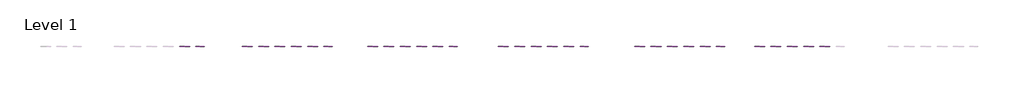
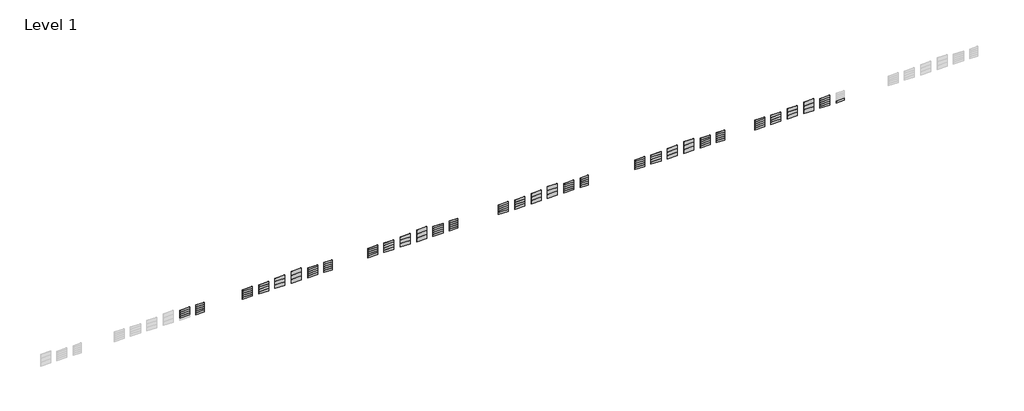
# One storey, part 3 of 6: 130 plates.
"""IFC4 building model written with IfcOpenShell, lengths in millimetres."""

from ifc_helpers import new_model, si_unit, origin, place, context, project, spatial, transform, mapped, element, save
from components import s001_satin_white_20mm_e5290f1d, plate_eaecce36, s001_satin_white_20mm_25284a5f, plate_eb5be41b, s001_satin_white_12mm_60b0a342, s001_satin_white_12mm_af0daad2, s001_satin_white_12mm_b3103b5f, plate_547342df, s001_satin_white_12mm_c1b55f6d, s001_satin_white_12mm_d668b75a, s001_satin_white_12mm_d8c75ca1, s001_satin_white_12mm_670b1509

model = new_model("IFC4")

# Units and contexts
model_context = context("Model", 3, world=origin())
ifc_project = project(units=[si_unit("LENGTHUNIT", "METRE", prefix="MILLI")], contexts=[model_context])

# Site, building, storey
site = spatial("IfcSite", under=ifc_project)
building = spatial("IfcBuilding", under=site)
storey = spatial("IfcBuildingStorey", under=building, Name="Level 1", Elevation=0.0)

# Plates
placement = place(None, origin())
s001_satin_white_20mm_shape = s001_satin_white_20mm_e5290f1d(model_context)
element("IfcPlate", 1, ObjectType="Curtain-Panels_Outdoor-Material_HI-MACS_Solids : S006_Artic-White_20mm", at=placement, inside=storey, context=model_context, shape_type="MappedRepresentation", body=[
    mapped(s001_satin_white_20mm_shape, transform((134315.8858072, 1061.3187116, 760.0), x_axis=(1.0, 0.0, 0.0), y_axis=(0.0, 1.0, 0.0), z_axis=(0.0, 0.0, 1.0))),
])
element("IfcPlate", 2, ObjectType="Curtain-Panels_Outdoor-Material_HI-MACS_Solids : S006_Artic-White_20mm", at=placement, inside=storey, context=model_context, shape_type="MappedRepresentation", body=[
    mapped(s001_satin_white_20mm_shape, transform((134315.8858072, 1061.3187116, 1520.0), x_axis=(1.0, 0.0, 0.0), y_axis=(0.0, 1.0, 0.0), z_axis=(0.0, 0.0, 1.0))),
])
element("IfcPlate", 3, ObjectType="Curtain-Panels_Outdoor-Material_HI-MACS_Solids : S006_Artic-White_20mm", at=placement, inside=storey, context=model_context, shape_type="MappedRepresentation", body=[
    mapped(s001_satin_white_20mm_shape, transform((134315.8858072, 1061.3187116, 2280.0), x_axis=(1.0, 0.0, 0.0), y_axis=(0.0, 1.0, 0.0), z_axis=(0.0, 0.0, 1.0))),
])
plate_shape = plate_eaecce36(model_context)
element("IfcPlate", 4, ObjectType="Curtain-Panels_Outdoor-Material_HI-MACS_Solids : S006_Artic-White_20mm", at=placement, inside=storey, context=model_context, shape_type="MappedRepresentation", body=[
    mapped(plate_shape, transform((134315.8858072, 1061.3187116, 3040.0), x_axis=(1.0, 0.0, 0.0), y_axis=(0.0, 1.0, 0.0), z_axis=(0.0, 0.0, 1.0))),
])
s001_satin_white_20mm_2_shape = s001_satin_white_20mm_25284a5f(model_context)
element("IfcPlate", 5, ObjectType="Curtain-Panels_Outdoor-Material_HI-MACS_Solids : S006_Artic-White_20mm", at=placement, inside=storey, context=model_context, shape_type="MappedRepresentation", body=[
    mapped(s001_satin_white_20mm_2_shape, transform((139975.8858072, 1061.3187116, 0.0), x_axis=(1.0, 0.0, 0.0), y_axis=(0.0, 1.0, 0.0), z_axis=(0.0, 0.0, 1.0))),
])
element("IfcPlate", 6, ObjectType="Curtain-Panels_Outdoor-Material_HI-MACS_Solids : S006_Artic-White_20mm", at=placement, inside=storey, context=model_context, shape_type="MappedRepresentation", body=[
    mapped(s001_satin_white_20mm_2_shape, transform((139975.8858072, 1061.3187116, 760.0), x_axis=(1.0, 0.0, 0.0), y_axis=(0.0, 1.0, 0.0), z_axis=(0.0, 0.0, 1.0))),
])
element("IfcPlate", 7, ObjectType="Curtain-Panels_Outdoor-Material_HI-MACS_Solids : S006_Artic-White_20mm", at=placement, inside=storey, context=model_context, shape_type="MappedRepresentation", body=[
    mapped(s001_satin_white_20mm_2_shape, transform((139975.8858072, 1061.3187116, 1520.0), x_axis=(1.0, 0.0, 0.0), y_axis=(0.0, 1.0, 0.0), z_axis=(0.0, 0.0, 1.0))),
])
element("IfcPlate", 8, ObjectType="Curtain-Panels_Outdoor-Material_HI-MACS_Solids : S006_Artic-White_20mm", at=placement, inside=storey, context=model_context, shape_type="MappedRepresentation", body=[
    mapped(s001_satin_white_20mm_2_shape, transform((139975.8858072, 1061.3187116, 2280.0), x_axis=(1.0, 0.0, 0.0), y_axis=(0.0, 1.0, 0.0), z_axis=(0.0, 0.0, 1.0))),
])
plate_2_shape = plate_eb5be41b(model_context)
element("IfcPlate", 9, ObjectType="Curtain-Panels_Outdoor-Material_HI-MACS_Solids : S006_Artic-White_20mm", at=placement, inside=storey, context=model_context, shape_type="MappedRepresentation", body=[
    mapped(plate_2_shape, transform((139975.8858072, 1061.3187116, 3040.0), x_axis=(1.0, 0.0, 0.0), y_axis=(0.0, 1.0, 0.0), z_axis=(0.0, 0.0, 1.0))),
])
s001_satin_white_12mm_shape = s001_satin_white_12mm_60b0a342(model_context)
element("IfcPlate", 10, ObjectType="Curtain-Panels_Outdoor-Material_HI-MACS_Solids : S025_Fiery-Red_12mm", at=placement, inside=storey, context=model_context, shape_type="MappedRepresentation", body=[
    mapped(s001_satin_white_12mm_shape, transform((251315.8858072, 1061.3187116, 0.0), x_axis=(1.0, 0.0, 0.0), y_axis=(0.0, 1.0, 0.0), z_axis=(0.0, 0.0, 1.0))),
])
element("IfcPlate", 11, ObjectType="Curtain-Panels_Outdoor-Material_HI-MACS_Solids : S025_Fiery-Red_12mm", at=placement, inside=storey, context=model_context, shape_type="MappedRepresentation", body=[
    mapped(s001_satin_white_12mm_shape, transform((251315.8858072, 1061.3187116, 760.0), x_axis=(1.0, 0.0, 0.0), y_axis=(0.0, 1.0, 0.0), z_axis=(0.0, 0.0, 1.0))),
])
element("IfcPlate", 12, ObjectType="Curtain-Panels_Outdoor-Material_HI-MACS_Solids : S025_Fiery-Red_12mm", at=placement, inside=storey, context=model_context, shape_type="MappedRepresentation", body=[
    mapped(s001_satin_white_12mm_shape, transform((251315.8858072, 1061.3187116, 1520.0), x_axis=(1.0, 0.0, 0.0), y_axis=(0.0, 1.0, 0.0), z_axis=(0.0, 0.0, 1.0))),
])
element("IfcPlate", 13, ObjectType="Curtain-Panels_Outdoor-Material_HI-MACS_Solids : S025_Fiery-Red_12mm", at=placement, inside=storey, context=model_context, shape_type="MappedRepresentation", body=[
    mapped(s001_satin_white_12mm_shape, transform((251315.8858072, 1061.3187116, 2280.0), x_axis=(1.0, 0.0, 0.0), y_axis=(0.0, 1.0, 0.0), z_axis=(0.0, 0.0, 1.0))),
])
s001_satin_white_12mm_2_shape = s001_satin_white_12mm_af0daad2(model_context)
element("IfcPlate", 14, ObjectType="Curtain-Panels_Outdoor-Material_HI-MACS_Solids : S025_Fiery-Red_12mm", at=placement, inside=storey, context=model_context, shape_type="MappedRepresentation", body=[
    mapped(s001_satin_white_12mm_2_shape, transform((251315.8858072, 1061.3187116, 3040.0), x_axis=(1.0, 0.0, 0.0), y_axis=(0.0, 1.0, 0.0), z_axis=(0.0, 0.0, 1.0))),
])
s001_satin_white_12mm_3_shape = s001_satin_white_12mm_b3103b5f(model_context)
element("IfcPlate", 15, ObjectType="Curtain-Panels_Outdoor-Material_HI-MACS_Solids : S025_Fiery-Red_12mm", at=placement, inside=storey, context=model_context, shape_type="MappedRepresentation", body=[
    mapped(s001_satin_white_12mm_3_shape, transform((257315.8858072, 1061.3187116, 0.0), x_axis=(1.0, 0.0, 0.0), y_axis=(0.0, 1.0, 0.0), z_axis=(0.0, 0.0, 1.0))),
])
element("IfcPlate", 16, ObjectType="Curtain-Panels_Outdoor-Material_HI-MACS_Solids : S025_Fiery-Red_12mm", at=placement, inside=storey, context=model_context, shape_type="MappedRepresentation", body=[
    mapped(s001_satin_white_12mm_3_shape, transform((257315.8858072, 1061.3187116, 910.0), x_axis=(1.0, 0.0, 0.0), y_axis=(0.0, 1.0, 0.0), z_axis=(0.0, 0.0, 1.0))),
])
element("IfcPlate", 17, ObjectType="Curtain-Panels_Outdoor-Material_HI-MACS_Solids : S025_Fiery-Red_12mm", at=placement, inside=storey, context=model_context, shape_type="MappedRepresentation", body=[
    mapped(s001_satin_white_12mm_3_shape, transform((257315.8858072, 1061.3187116, 1820.0), x_axis=(1.0, 0.0, 0.0), y_axis=(0.0, 1.0, 0.0), z_axis=(0.0, 0.0, 1.0))),
])
plate_3_shape = plate_547342df(model_context)
element("IfcPlate", 18, ObjectType="Curtain-Panels_Outdoor-Material_HI-MACS_Solids : S025_Fiery-Red_12mm", at=placement, inside=storey, context=model_context, shape_type="MappedRepresentation", body=[
    mapped(plate_3_shape, transform((257315.8858072, 1061.3187116, 2730.0), x_axis=(1.0, 0.0, 0.0), y_axis=(0.0, 1.0, 0.0), z_axis=(0.0, 0.0, 1.0))),
])
s001_satin_white_12mm_4_shape = s001_satin_white_12mm_c1b55f6d(model_context)
element("IfcPlate", 19, ObjectType="Curtain-Panels_Outdoor-Material_HI-MACS_Solids : S025_Fiery-Red_12mm", at=placement, inside=storey, context=model_context, shape_type="MappedRepresentation", body=[
    mapped(s001_satin_white_12mm_4_shape, transform((263315.8858072, 1061.3187116, 0.0), x_axis=(1.0, 0.0, 0.0), y_axis=(0.0, 1.0, 0.0), z_axis=(0.0, 0.0, 1.0))),
])
element("IfcPlate", 20, ObjectType="Curtain-Panels_Outdoor-Material_HI-MACS_Solids : S025_Fiery-Red_12mm", at=placement, inside=storey, context=model_context, shape_type="MappedRepresentation", body=[
    mapped(s001_satin_white_12mm_4_shape, transform((263315.8858072, 1061.3187116, 1350.0), x_axis=(1.0, 0.0, 0.0), y_axis=(0.0, 1.0, 0.0), z_axis=(0.0, 0.0, 1.0))),
])
s001_satin_white_12mm_5_shape = s001_satin_white_12mm_d668b75a(model_context)
element("IfcPlate", 21, ObjectType="Curtain-Panels_Outdoor-Material_HI-MACS_Solids : S025_Fiery-Red_12mm", at=placement, inside=storey, context=model_context, shape_type="MappedRepresentation", body=[
    mapped(s001_satin_white_12mm_5_shape, transform((263315.8858072, 1061.3187116, 2700.0), x_axis=(1.0, 0.0, 0.0), y_axis=(0.0, 1.0, 0.0), z_axis=(0.0, 0.0, 1.0))),
])
s001_satin_white_12mm_6_shape = s001_satin_white_12mm_d8c75ca1(model_context)
element("IfcPlate", 22, ObjectType="Curtain-Panels_Outdoor-Material_HI-MACS_Solids : S025_Fiery-Red_12mm", at=placement, inside=storey, context=model_context, shape_type="MappedRepresentation", body=[
    mapped(s001_satin_white_12mm_6_shape, transform((269315.8858072, 1061.3187116, 0.0), x_axis=(1.0, 0.0, 0.0), y_axis=(0.0, 1.0, 0.0), z_axis=(0.0, 0.0, 1.0))),
])
element("IfcPlate", 23, ObjectType="Curtain-Panels_Outdoor-Material_HI-MACS_Solids : S025_Fiery-Red_12mm", at=placement, inside=storey, context=model_context, shape_type="MappedRepresentation", body=[
    mapped(s001_satin_white_12mm_6_shape, transform((269315.8858072, 1061.3187116, 1520.0), x_axis=(1.0, 0.0, 0.0), y_axis=(0.0, 1.0, 0.0), z_axis=(0.0, 0.0, 1.0))),
])
s001_satin_white_12mm_7_shape = s001_satin_white_12mm_670b1509(model_context)
element("IfcPlate", 24, ObjectType="Curtain-Panels_Outdoor-Material_HI-MACS_Solids : S025_Fiery-Red_12mm", at=placement, inside=storey, context=model_context, shape_type="MappedRepresentation", body=[
    mapped(s001_satin_white_12mm_7_shape, transform((269315.8858072, 1061.3187116, 3040.0), x_axis=(1.0, 0.0, 0.0), y_axis=(0.0, 1.0, 0.0), z_axis=(0.0, 0.0, 1.0))),
])
element("IfcPlate", 25, ObjectType="Curtain-Panels_Outdoor-Material_HI-MACS_Solids : S025_Fiery-Red_20mm", at=placement, inside=storey, context=model_context, shape_type="MappedRepresentation", body=[
    mapped(s001_satin_white_20mm_shape, transform((275315.8858072, 1061.3187116, 0.0), x_axis=(1.0, 0.0, 0.0), y_axis=(0.0, 1.0, 0.0), z_axis=(0.0, 0.0, 1.0))),
])
element("IfcPlate", 26, ObjectType="Curtain-Panels_Outdoor-Material_HI-MACS_Solids : S025_Fiery-Red_20mm", at=placement, inside=storey, context=model_context, shape_type="MappedRepresentation", body=[
    mapped(s001_satin_white_20mm_shape, transform((275315.8858072, 1061.3187116, 760.0), x_axis=(1.0, 0.0, 0.0), y_axis=(0.0, 1.0, 0.0), z_axis=(0.0, 0.0, 1.0))),
])
element("IfcPlate", 27, ObjectType="Curtain-Panels_Outdoor-Material_HI-MACS_Solids : S025_Fiery-Red_20mm", at=placement, inside=storey, context=model_context, shape_type="MappedRepresentation", body=[
    mapped(s001_satin_white_20mm_shape, transform((275315.8858072, 1061.3187116, 1520.0), x_axis=(1.0, 0.0, 0.0), y_axis=(0.0, 1.0, 0.0), z_axis=(0.0, 0.0, 1.0))),
])
element("IfcPlate", 28, ObjectType="Curtain-Panels_Outdoor-Material_HI-MACS_Solids : S025_Fiery-Red_20mm", at=placement, inside=storey, context=model_context, shape_type="MappedRepresentation", body=[
    mapped(s001_satin_white_20mm_shape, transform((275315.8858072, 1061.3187116, 2280.0), x_axis=(1.0, 0.0, 0.0), y_axis=(0.0, 1.0, 0.0), z_axis=(0.0, 0.0, 1.0))),
])
element("IfcPlate", 29, ObjectType="Curtain-Panels_Outdoor-Material_HI-MACS_Solids : S025_Fiery-Red_20mm", at=placement, inside=storey, context=model_context, shape_type="MappedRepresentation", body=[
    mapped(plate_shape, transform((275315.8858072, 1061.3187116, 3040.0), x_axis=(1.0, 0.0, 0.0), y_axis=(0.0, 1.0, 0.0), z_axis=(0.0, 0.0, 1.0))),
])
element("IfcPlate", 30, ObjectType="Curtain-Panels_Outdoor-Material_HI-MACS_Solids : S025_Fiery-Red_20mm", at=placement, inside=storey, context=model_context, shape_type="MappedRepresentation", body=[
    mapped(s001_satin_white_20mm_2_shape, transform((280975.8858072, 1061.3187116, 0.0), x_axis=(1.0, 0.0, 0.0), y_axis=(0.0, 1.0, 0.0), z_axis=(0.0, 0.0, 1.0))),
])
element("IfcPlate", 31, ObjectType="Curtain-Panels_Outdoor-Material_HI-MACS_Solids : S025_Fiery-Red_20mm", at=placement, inside=storey, context=model_context, shape_type="MappedRepresentation", body=[
    mapped(s001_satin_white_20mm_2_shape, transform((280975.8858072, 1061.3187116, 760.0), x_axis=(1.0, 0.0, 0.0), y_axis=(0.0, 1.0, 0.0), z_axis=(0.0, 0.0, 1.0))),
])
element("IfcPlate", 32, ObjectType="Curtain-Panels_Outdoor-Material_HI-MACS_Solids : S025_Fiery-Red_20mm", at=placement, inside=storey, context=model_context, shape_type="MappedRepresentation", body=[
    mapped(s001_satin_white_20mm_2_shape, transform((280975.8858072, 1061.3187116, 1520.0), x_axis=(1.0, 0.0, 0.0), y_axis=(0.0, 1.0, 0.0), z_axis=(0.0, 0.0, 1.0))),
])
element("IfcPlate", 33, ObjectType="Curtain-Panels_Outdoor-Material_HI-MACS_Solids : S025_Fiery-Red_20mm", at=placement, inside=storey, context=model_context, shape_type="MappedRepresentation", body=[
    mapped(s001_satin_white_20mm_2_shape, transform((280975.8858072, 1061.3187116, 2280.0), x_axis=(1.0, 0.0, 0.0), y_axis=(0.0, 1.0, 0.0), z_axis=(0.0, 0.0, 1.0))),
])
element("IfcPlate", 34, ObjectType="Curtain-Panels_Outdoor-Material_HI-MACS_Solids : S025_Fiery-Red_20mm", at=placement, inside=storey, context=model_context, shape_type="MappedRepresentation", body=[
    mapped(plate_2_shape, transform((280975.8858072, 1061.3187116, 3040.0), x_axis=(1.0, 0.0, 0.0), y_axis=(0.0, 1.0, 0.0), z_axis=(0.0, 0.0, 1.0))),
])
element("IfcPlate", 35, ObjectType="Curtain-Panels_Outdoor-Material_HI-MACS_Solids : S009_Cream_12mm", at=placement, inside=storey, context=model_context, shape_type="MappedRepresentation", body=[
    mapped(s001_satin_white_12mm_shape, transform((157315.8858072, 1061.3187116, 0.0), x_axis=(1.0, 0.0, 0.0), y_axis=(0.0, 1.0, 0.0), z_axis=(0.0, 0.0, 1.0))),
])
element("IfcPlate", 36, ObjectType="Curtain-Panels_Outdoor-Material_HI-MACS_Solids : S009_Cream_12mm", at=placement, inside=storey, context=model_context, shape_type="MappedRepresentation", body=[
    mapped(s001_satin_white_12mm_shape, transform((157315.8858072, 1061.3187116, 760.0), x_axis=(1.0, 0.0, 0.0), y_axis=(0.0, 1.0, 0.0), z_axis=(0.0, 0.0, 1.0))),
])
element("IfcPlate", 37, ObjectType="Curtain-Panels_Outdoor-Material_HI-MACS_Solids : S009_Cream_12mm", at=placement, inside=storey, context=model_context, shape_type="MappedRepresentation", body=[
    mapped(s001_satin_white_12mm_shape, transform((157315.8858072, 1061.3187116, 1520.0), x_axis=(1.0, 0.0, 0.0), y_axis=(0.0, 1.0, 0.0), z_axis=(0.0, 0.0, 1.0))),
])
element("IfcPlate", 38, ObjectType="Curtain-Panels_Outdoor-Material_HI-MACS_Solids : S009_Cream_12mm", at=placement, inside=storey, context=model_context, shape_type="MappedRepresentation", body=[
    mapped(s001_satin_white_12mm_shape, transform((157315.8858072, 1061.3187116, 2280.0), x_axis=(1.0, 0.0, 0.0), y_axis=(0.0, 1.0, 0.0), z_axis=(0.0, 0.0, 1.0))),
])
element("IfcPlate", 39, ObjectType="Curtain-Panels_Outdoor-Material_HI-MACS_Solids : S009_Cream_12mm", at=placement, inside=storey, context=model_context, shape_type="MappedRepresentation", body=[
    mapped(s001_satin_white_12mm_2_shape, transform((157315.8858072, 1061.3187116, 3040.0), x_axis=(1.0, 0.0, 0.0), y_axis=(0.0, 1.0, 0.0), z_axis=(0.0, 0.0, 1.0))),
])
element("IfcPlate", 40, ObjectType="Curtain-Panels_Outdoor-Material_HI-MACS_Solids : S009_Cream_12mm", at=placement, inside=storey, context=model_context, shape_type="MappedRepresentation", body=[
    mapped(s001_satin_white_12mm_3_shape, transform((163315.8858072, 1061.3187116, 0.0), x_axis=(1.0, 0.0, 0.0), y_axis=(0.0, 1.0, 0.0), z_axis=(0.0, 0.0, 1.0))),
])
element("IfcPlate", 41, ObjectType="Curtain-Panels_Outdoor-Material_HI-MACS_Solids : S009_Cream_12mm", at=placement, inside=storey, context=model_context, shape_type="MappedRepresentation", body=[
    mapped(s001_satin_white_12mm_3_shape, transform((163315.8858072, 1061.3187116, 910.0), x_axis=(1.0, 0.0, 0.0), y_axis=(0.0, 1.0, 0.0), z_axis=(0.0, 0.0, 1.0))),
])
element("IfcPlate", 42, ObjectType="Curtain-Panels_Outdoor-Material_HI-MACS_Solids : S009_Cream_12mm", at=placement, inside=storey, context=model_context, shape_type="MappedRepresentation", body=[
    mapped(s001_satin_white_12mm_3_shape, transform((163315.8858072, 1061.3187116, 1820.0), x_axis=(1.0, 0.0, 0.0), y_axis=(0.0, 1.0, 0.0), z_axis=(0.0, 0.0, 1.0))),
])
element("IfcPlate", 43, ObjectType="Curtain-Panels_Outdoor-Material_HI-MACS_Solids : S009_Cream_12mm", at=placement, inside=storey, context=model_context, shape_type="MappedRepresentation", body=[
    mapped(plate_3_shape, transform((163315.8858072, 1061.3187116, 2730.0), x_axis=(1.0, 0.0, 0.0), y_axis=(0.0, 1.0, 0.0), z_axis=(0.0, 0.0, 1.0))),
])
element("IfcPlate", 44, ObjectType="Curtain-Panels_Outdoor-Material_HI-MACS_Solids : S009_Cream_12mm", at=placement, inside=storey, context=model_context, shape_type="MappedRepresentation", body=[
    mapped(s001_satin_white_12mm_4_shape, transform((169315.8858072, 1061.3187116, 0.0), x_axis=(1.0, 0.0, 0.0), y_axis=(0.0, 1.0, 0.0), z_axis=(0.0, 0.0, 1.0))),
])
element("IfcPlate", 45, ObjectType="Curtain-Panels_Outdoor-Material_HI-MACS_Solids : S009_Cream_12mm", at=placement, inside=storey, context=model_context, shape_type="MappedRepresentation", body=[
    mapped(s001_satin_white_12mm_4_shape, transform((169315.8858072, 1061.3187116, 1350.0), x_axis=(1.0, 0.0, 0.0), y_axis=(0.0, 1.0, 0.0), z_axis=(0.0, 0.0, 1.0))),
])
element("IfcPlate", 46, ObjectType="Curtain-Panels_Outdoor-Material_HI-MACS_Solids : S009_Cream_12mm", at=placement, inside=storey, context=model_context, shape_type="MappedRepresentation", body=[
    mapped(s001_satin_white_12mm_5_shape, transform((169315.8858072, 1061.3187116, 2700.0), x_axis=(1.0, 0.0, 0.0), y_axis=(0.0, 1.0, 0.0), z_axis=(0.0, 0.0, 1.0))),
])
element("IfcPlate", 47, ObjectType="Curtain-Panels_Outdoor-Material_HI-MACS_Solids : S009_Cream_12mm", at=placement, inside=storey, context=model_context, shape_type="MappedRepresentation", body=[
    mapped(s001_satin_white_12mm_6_shape, transform((175315.8858072, 1061.3187116, 0.0), x_axis=(1.0, 0.0, 0.0), y_axis=(0.0, 1.0, 0.0), z_axis=(0.0, 0.0, 1.0))),
])
element("IfcPlate", 48, ObjectType="Curtain-Panels_Outdoor-Material_HI-MACS_Solids : S009_Cream_12mm", at=placement, inside=storey, context=model_context, shape_type="MappedRepresentation", body=[
    mapped(s001_satin_white_12mm_6_shape, transform((175315.8858072, 1061.3187116, 1520.0), x_axis=(1.0, 0.0, 0.0), y_axis=(0.0, 1.0, 0.0), z_axis=(0.0, 0.0, 1.0))),
])
element("IfcPlate", 49, ObjectType="Curtain-Panels_Outdoor-Material_HI-MACS_Solids : S009_Cream_12mm", at=placement, inside=storey, context=model_context, shape_type="MappedRepresentation", body=[
    mapped(s001_satin_white_12mm_7_shape, transform((175315.8858072, 1061.3187116, 3040.0), x_axis=(1.0, 0.0, 0.0), y_axis=(0.0, 1.0, 0.0), z_axis=(0.0, 0.0, 1.0))),
])
element("IfcPlate", 50, ObjectType="Curtain-Panels_Outdoor-Material_HI-MACS_Solids : S009_Cream_20mm", at=placement, inside=storey, context=model_context, shape_type="MappedRepresentation", body=[
    mapped(s001_satin_white_20mm_shape, transform((181315.8858072, 1061.3187116, 0.0), x_axis=(1.0, 0.0, 0.0), y_axis=(0.0, 1.0, 0.0), z_axis=(0.0, 0.0, 1.0))),
])
element("IfcPlate", 51, ObjectType="Curtain-Panels_Outdoor-Material_HI-MACS_Solids : S009_Cream_20mm", at=placement, inside=storey, context=model_context, shape_type="MappedRepresentation", body=[
    mapped(s001_satin_white_20mm_shape, transform((181315.8858072, 1061.3187116, 760.0), x_axis=(1.0, 0.0, 0.0), y_axis=(0.0, 1.0, 0.0), z_axis=(0.0, 0.0, 1.0))),
])
element("IfcPlate", 52, ObjectType="Curtain-Panels_Outdoor-Material_HI-MACS_Solids : S009_Cream_20mm", at=placement, inside=storey, context=model_context, shape_type="MappedRepresentation", body=[
    mapped(s001_satin_white_20mm_shape, transform((181315.8858072, 1061.3187116, 1520.0), x_axis=(1.0, 0.0, 0.0), y_axis=(0.0, 1.0, 0.0), z_axis=(0.0, 0.0, 1.0))),
])
element("IfcPlate", 53, ObjectType="Curtain-Panels_Outdoor-Material_HI-MACS_Solids : S009_Cream_20mm", at=placement, inside=storey, context=model_context, shape_type="MappedRepresentation", body=[
    mapped(s001_satin_white_20mm_shape, transform((181315.8858072, 1061.3187116, 2280.0), x_axis=(1.0, 0.0, 0.0), y_axis=(0.0, 1.0, 0.0), z_axis=(0.0, 0.0, 1.0))),
])
element("IfcPlate", 54, ObjectType="Curtain-Panels_Outdoor-Material_HI-MACS_Solids : S009_Cream_20mm", at=placement, inside=storey, context=model_context, shape_type="MappedRepresentation", body=[
    mapped(plate_shape, transform((181315.8858072, 1061.3187116, 3040.0), x_axis=(1.0, 0.0, 0.0), y_axis=(0.0, 1.0, 0.0), z_axis=(0.0, 0.0, 1.0))),
])
element("IfcPlate", 55, ObjectType="Curtain-Panels_Outdoor-Material_HI-MACS_Solids : S009_Cream_20mm", at=placement, inside=storey, context=model_context, shape_type="MappedRepresentation", body=[
    mapped(s001_satin_white_20mm_2_shape, transform((186975.8858072, 1061.3187116, 0.0), x_axis=(1.0, 0.0, 0.0), y_axis=(0.0, 1.0, 0.0), z_axis=(0.0, 0.0, 1.0))),
])
element("IfcPlate", 56, ObjectType="Curtain-Panels_Outdoor-Material_HI-MACS_Solids : S009_Cream_20mm", at=placement, inside=storey, context=model_context, shape_type="MappedRepresentation", body=[
    mapped(s001_satin_white_20mm_2_shape, transform((186975.8858072, 1061.3187116, 760.0), x_axis=(1.0, 0.0, 0.0), y_axis=(0.0, 1.0, 0.0), z_axis=(0.0, 0.0, 1.0))),
])
element("IfcPlate", 57, ObjectType="Curtain-Panels_Outdoor-Material_HI-MACS_Solids : S009_Cream_20mm", at=placement, inside=storey, context=model_context, shape_type="MappedRepresentation", body=[
    mapped(s001_satin_white_20mm_2_shape, transform((186975.8858072, 1061.3187116, 1520.0), x_axis=(1.0, 0.0, 0.0), y_axis=(0.0, 1.0, 0.0), z_axis=(0.0, 0.0, 1.0))),
])
element("IfcPlate", 58, ObjectType="Curtain-Panels_Outdoor-Material_HI-MACS_Solids : S009_Cream_20mm", at=placement, inside=storey, context=model_context, shape_type="MappedRepresentation", body=[
    mapped(s001_satin_white_20mm_2_shape, transform((186975.8858072, 1061.3187116, 2280.0), x_axis=(1.0, 0.0, 0.0), y_axis=(0.0, 1.0, 0.0), z_axis=(0.0, 0.0, 1.0))),
])
element("IfcPlate", 59, ObjectType="Curtain-Panels_Outdoor-Material_HI-MACS_Solids : S009_Cream_20mm", at=placement, inside=storey, context=model_context, shape_type="MappedRepresentation", body=[
    mapped(plate_2_shape, transform((186975.8858072, 1061.3187116, 3040.0), x_axis=(1.0, 0.0, 0.0), y_axis=(0.0, 1.0, 0.0), z_axis=(0.0, 0.0, 1.0))),
])
element("IfcPlate", 60, ObjectType="Curtain-Panels_Outdoor-Material_HI-MACS_Solids : S022_Black_12mm", at=placement, inside=storey, context=model_context, shape_type="MappedRepresentation", body=[
    mapped(s001_satin_white_12mm_shape, transform((203315.8858072, 1061.3187116, 0.0), x_axis=(1.0, 0.0, 0.0), y_axis=(0.0, 1.0, 0.0), z_axis=(0.0, 0.0, 1.0))),
])
element("IfcPlate", 61, ObjectType="Curtain-Panels_Outdoor-Material_HI-MACS_Solids : S022_Black_12mm", at=placement, inside=storey, context=model_context, shape_type="MappedRepresentation", body=[
    mapped(s001_satin_white_12mm_shape, transform((203315.8858072, 1061.3187116, 760.0), x_axis=(1.0, 0.0, 0.0), y_axis=(0.0, 1.0, 0.0), z_axis=(0.0, 0.0, 1.0))),
])
element("IfcPlate", 62, ObjectType="Curtain-Panels_Outdoor-Material_HI-MACS_Solids : S022_Black_12mm", at=placement, inside=storey, context=model_context, shape_type="MappedRepresentation", body=[
    mapped(s001_satin_white_12mm_shape, transform((203315.8858072, 1061.3187116, 1520.0), x_axis=(1.0, 0.0, 0.0), y_axis=(0.0, 1.0, 0.0), z_axis=(0.0, 0.0, 1.0))),
])
element("IfcPlate", 63, ObjectType="Curtain-Panels_Outdoor-Material_HI-MACS_Solids : S022_Black_12mm", at=placement, inside=storey, context=model_context, shape_type="MappedRepresentation", body=[
    mapped(s001_satin_white_12mm_shape, transform((203315.8858072, 1061.3187116, 2280.0), x_axis=(1.0, 0.0, 0.0), y_axis=(0.0, 1.0, 0.0), z_axis=(0.0, 0.0, 1.0))),
])
element("IfcPlate", 64, ObjectType="Curtain-Panels_Outdoor-Material_HI-MACS_Solids : S022_Black_12mm", at=placement, inside=storey, context=model_context, shape_type="MappedRepresentation", body=[
    mapped(s001_satin_white_12mm_2_shape, transform((203315.8858072, 1061.3187116, 3040.0), x_axis=(1.0, 0.0, 0.0), y_axis=(0.0, 1.0, 0.0), z_axis=(0.0, 0.0, 1.0))),
])
element("IfcPlate", 65, ObjectType="Curtain-Panels_Outdoor-Material_HI-MACS_Solids : S022_Black_12mm", at=placement, inside=storey, context=model_context, shape_type="MappedRepresentation", body=[
    mapped(s001_satin_white_12mm_3_shape, transform((209315.8858072, 1061.3187116, 0.0), x_axis=(1.0, 0.0, 0.0), y_axis=(0.0, 1.0, 0.0), z_axis=(0.0, 0.0, 1.0))),
])
element("IfcPlate", 66, ObjectType="Curtain-Panels_Outdoor-Material_HI-MACS_Solids : S022_Black_12mm", at=placement, inside=storey, context=model_context, shape_type="MappedRepresentation", body=[
    mapped(s001_satin_white_12mm_3_shape, transform((209315.8858072, 1061.3187116, 910.0), x_axis=(1.0, 0.0, 0.0), y_axis=(0.0, 1.0, 0.0), z_axis=(0.0, 0.0, 1.0))),
])
element("IfcPlate", 67, ObjectType="Curtain-Panels_Outdoor-Material_HI-MACS_Solids : S022_Black_12mm", at=placement, inside=storey, context=model_context, shape_type="MappedRepresentation", body=[
    mapped(s001_satin_white_12mm_3_shape, transform((209315.8858072, 1061.3187116, 1820.0), x_axis=(1.0, 0.0, 0.0), y_axis=(0.0, 1.0, 0.0), z_axis=(0.0, 0.0, 1.0))),
])
element("IfcPlate", 68, ObjectType="Curtain-Panels_Outdoor-Material_HI-MACS_Solids : S022_Black_12mm", at=placement, inside=storey, context=model_context, shape_type="MappedRepresentation", body=[
    mapped(plate_3_shape, transform((209315.8858072, 1061.3187116, 2730.0), x_axis=(1.0, 0.0, 0.0), y_axis=(0.0, 1.0, 0.0), z_axis=(0.0, 0.0, 1.0))),
])
element("IfcPlate", 69, ObjectType="Curtain-Panels_Outdoor-Material_HI-MACS_Solids : S022_Black_12mm", at=placement, inside=storey, context=model_context, shape_type="MappedRepresentation", body=[
    mapped(s001_satin_white_12mm_4_shape, transform((215315.8858072, 1061.3187116, 0.0), x_axis=(1.0, 0.0, 0.0), y_axis=(0.0, 1.0, 0.0), z_axis=(0.0, 0.0, 1.0))),
])
element("IfcPlate", 70, ObjectType="Curtain-Panels_Outdoor-Material_HI-MACS_Solids : S022_Black_12mm", at=placement, inside=storey, context=model_context, shape_type="MappedRepresentation", body=[
    mapped(s001_satin_white_12mm_4_shape, transform((215315.8858072, 1061.3187116, 1350.0), x_axis=(1.0, 0.0, 0.0), y_axis=(0.0, 1.0, 0.0), z_axis=(0.0, 0.0, 1.0))),
])
element("IfcPlate", 71, ObjectType="Curtain-Panels_Outdoor-Material_HI-MACS_Solids : S022_Black_12mm", at=placement, inside=storey, context=model_context, shape_type="MappedRepresentation", body=[
    mapped(s001_satin_white_12mm_5_shape, transform((215315.8858072, 1061.3187116, 2700.0), x_axis=(1.0, 0.0, 0.0), y_axis=(0.0, 1.0, 0.0), z_axis=(0.0, 0.0, 1.0))),
])
element("IfcPlate", 72, ObjectType="Curtain-Panels_Outdoor-Material_HI-MACS_Solids : S022_Black_12mm", at=placement, inside=storey, context=model_context, shape_type="MappedRepresentation", body=[
    mapped(s001_satin_white_12mm_6_shape, transform((221315.8858072, 1061.3187116, 0.0), x_axis=(1.0, 0.0, 0.0), y_axis=(0.0, 1.0, 0.0), z_axis=(0.0, 0.0, 1.0))),
])
element("IfcPlate", 73, ObjectType="Curtain-Panels_Outdoor-Material_HI-MACS_Solids : S022_Black_12mm", at=placement, inside=storey, context=model_context, shape_type="MappedRepresentation", body=[
    mapped(s001_satin_white_12mm_6_shape, transform((221315.8858072, 1061.3187116, 1520.0), x_axis=(1.0, 0.0, 0.0), y_axis=(0.0, 1.0, 0.0), z_axis=(0.0, 0.0, 1.0))),
])
element("IfcPlate", 74, ObjectType="Curtain-Panels_Outdoor-Material_HI-MACS_Solids : S022_Black_12mm", at=placement, inside=storey, context=model_context, shape_type="MappedRepresentation", body=[
    mapped(s001_satin_white_12mm_7_shape, transform((221315.8858072, 1061.3187116, 3040.0), x_axis=(1.0, 0.0, 0.0), y_axis=(0.0, 1.0, 0.0), z_axis=(0.0, 0.0, 1.0))),
])
element("IfcPlate", 75, ObjectType="Curtain-Panels_Outdoor-Material_HI-MACS_Solids : S022_Black_20mm", at=placement, inside=storey, context=model_context, shape_type="MappedRepresentation", body=[
    mapped(s001_satin_white_20mm_shape, transform((227315.8858072, 1061.3187116, 0.0), x_axis=(1.0, 0.0, 0.0), y_axis=(0.0, 1.0, 0.0), z_axis=(0.0, 0.0, 1.0))),
])
element("IfcPlate", 76, ObjectType="Curtain-Panels_Outdoor-Material_HI-MACS_Solids : S022_Black_20mm", at=placement, inside=storey, context=model_context, shape_type="MappedRepresentation", body=[
    mapped(s001_satin_white_20mm_shape, transform((227315.8858072, 1061.3187116, 760.0), x_axis=(1.0, 0.0, 0.0), y_axis=(0.0, 1.0, 0.0), z_axis=(0.0, 0.0, 1.0))),
])
element("IfcPlate", 77, ObjectType="Curtain-Panels_Outdoor-Material_HI-MACS_Solids : S022_Black_20mm", at=placement, inside=storey, context=model_context, shape_type="MappedRepresentation", body=[
    mapped(s001_satin_white_20mm_shape, transform((227315.8858072, 1061.3187116, 1520.0), x_axis=(1.0, 0.0, 0.0), y_axis=(0.0, 1.0, 0.0), z_axis=(0.0, 0.0, 1.0))),
])
element("IfcPlate", 78, ObjectType="Curtain-Panels_Outdoor-Material_HI-MACS_Solids : S022_Black_20mm", at=placement, inside=storey, context=model_context, shape_type="MappedRepresentation", body=[
    mapped(s001_satin_white_20mm_shape, transform((227315.8858072, 1061.3187116, 2280.0), x_axis=(1.0, 0.0, 0.0), y_axis=(0.0, 1.0, 0.0), z_axis=(0.0, 0.0, 1.0))),
])
element("IfcPlate", 79, ObjectType="Curtain-Panels_Outdoor-Material_HI-MACS_Solids : S022_Black_20mm", at=placement, inside=storey, context=model_context, shape_type="MappedRepresentation", body=[
    mapped(plate_shape, transform((227315.8858072, 1061.3187116, 3040.0), x_axis=(1.0, 0.0, 0.0), y_axis=(0.0, 1.0, 0.0), z_axis=(0.0, 0.0, 1.0))),
])
element("IfcPlate", 80, ObjectType="Curtain-Panels_Outdoor-Material_HI-MACS_Solids : S022_Black_20mm", at=placement, inside=storey, context=model_context, shape_type="MappedRepresentation", body=[
    mapped(s001_satin_white_20mm_2_shape, transform((232975.8858072, 1061.3187116, 0.0), x_axis=(1.0, 0.0, 0.0), y_axis=(0.0, 1.0, 0.0), z_axis=(0.0, 0.0, 1.0))),
])
element("IfcPlate", 81, ObjectType="Curtain-Panels_Outdoor-Material_HI-MACS_Solids : S022_Black_20mm", at=placement, inside=storey, context=model_context, shape_type="MappedRepresentation", body=[
    mapped(s001_satin_white_20mm_2_shape, transform((232975.8858072, 1061.3187116, 760.0), x_axis=(1.0, 0.0, 0.0), y_axis=(0.0, 1.0, 0.0), z_axis=(0.0, 0.0, 1.0))),
])
element("IfcPlate", 82, ObjectType="Curtain-Panels_Outdoor-Material_HI-MACS_Solids : S022_Black_20mm", at=placement, inside=storey, context=model_context, shape_type="MappedRepresentation", body=[
    mapped(s001_satin_white_20mm_2_shape, transform((232975.8858072, 1061.3187116, 1520.0), x_axis=(1.0, 0.0, 0.0), y_axis=(0.0, 1.0, 0.0), z_axis=(0.0, 0.0, 1.0))),
])
element("IfcPlate", 83, ObjectType="Curtain-Panels_Outdoor-Material_HI-MACS_Solids : S022_Black_20mm", at=placement, inside=storey, context=model_context, shape_type="MappedRepresentation", body=[
    mapped(s001_satin_white_20mm_2_shape, transform((232975.8858072, 1061.3187116, 2280.0), x_axis=(1.0, 0.0, 0.0), y_axis=(0.0, 1.0, 0.0), z_axis=(0.0, 0.0, 1.0))),
])
element("IfcPlate", 84, ObjectType="Curtain-Panels_Outdoor-Material_HI-MACS_Solids : S022_Black_20mm", at=placement, inside=storey, context=model_context, shape_type="MappedRepresentation", body=[
    mapped(plate_2_shape, transform((232975.8858072, 1061.3187116, 3040.0), x_axis=(1.0, 0.0, 0.0), y_axis=(0.0, 1.0, 0.0), z_axis=(0.0, 0.0, 1.0))),
])
element("IfcPlate", 85, ObjectType="Curtain-Panels_Outdoor-Material_HI-MACS_Solids : S026_Banana_12mm", at=placement, inside=storey, context=model_context, shape_type="MappedRepresentation", body=[
    mapped(s001_satin_white_12mm_shape, transform((301315.8858072, 1061.3187116, 0.0), x_axis=(1.0, 0.0, 0.0), y_axis=(0.0, 1.0, 0.0), z_axis=(0.0, 0.0, 1.0))),
])
element("IfcPlate", 86, ObjectType="Curtain-Panels_Outdoor-Material_HI-MACS_Solids : S026_Banana_12mm", at=placement, inside=storey, context=model_context, shape_type="MappedRepresentation", body=[
    mapped(s001_satin_white_12mm_shape, transform((301315.8858072, 1061.3187116, 760.0), x_axis=(1.0, 0.0, 0.0), y_axis=(0.0, 1.0, 0.0), z_axis=(0.0, 0.0, 1.0))),
])
element("IfcPlate", 87, ObjectType="Curtain-Panels_Outdoor-Material_HI-MACS_Solids : S026_Banana_12mm", at=placement, inside=storey, context=model_context, shape_type="MappedRepresentation", body=[
    mapped(s001_satin_white_12mm_shape, transform((301315.8858072, 1061.3187116, 1520.0), x_axis=(1.0, 0.0, 0.0), y_axis=(0.0, 1.0, 0.0), z_axis=(0.0, 0.0, 1.0))),
])
element("IfcPlate", 88, ObjectType="Curtain-Panels_Outdoor-Material_HI-MACS_Solids : S026_Banana_12mm", at=placement, inside=storey, context=model_context, shape_type="MappedRepresentation", body=[
    mapped(s001_satin_white_12mm_shape, transform((301315.8858072, 1061.3187116, 2280.0), x_axis=(1.0, 0.0, 0.0), y_axis=(0.0, 1.0, 0.0), z_axis=(0.0, 0.0, 1.0))),
])
element("IfcPlate", 89, ObjectType="Curtain-Panels_Outdoor-Material_HI-MACS_Solids : S026_Banana_12mm", at=placement, inside=storey, context=model_context, shape_type="MappedRepresentation", body=[
    mapped(s001_satin_white_12mm_2_shape, transform((301315.8858072, 1061.3187116, 3040.0), x_axis=(1.0, 0.0, 0.0), y_axis=(0.0, 1.0, 0.0), z_axis=(0.0, 0.0, 1.0))),
])
element("IfcPlate", 90, ObjectType="Curtain-Panels_Outdoor-Material_HI-MACS_Solids : S026_Banana_12mm", at=placement, inside=storey, context=model_context, shape_type="MappedRepresentation", body=[
    mapped(s001_satin_white_12mm_3_shape, transform((307315.8858072, 1061.3187116, 0.0), x_axis=(1.0, 0.0, 0.0), y_axis=(0.0, 1.0, 0.0), z_axis=(0.0, 0.0, 1.0))),
])
element("IfcPlate", 91, ObjectType="Curtain-Panels_Outdoor-Material_HI-MACS_Solids : S026_Banana_12mm", at=placement, inside=storey, context=model_context, shape_type="MappedRepresentation", body=[
    mapped(s001_satin_white_12mm_3_shape, transform((307315.8858072, 1061.3187116, 910.0), x_axis=(1.0, 0.0, 0.0), y_axis=(0.0, 1.0, 0.0), z_axis=(0.0, 0.0, 1.0))),
])
element("IfcPlate", 92, ObjectType="Curtain-Panels_Outdoor-Material_HI-MACS_Solids : S026_Banana_12mm", at=placement, inside=storey, context=model_context, shape_type="MappedRepresentation", body=[
    mapped(s001_satin_white_12mm_3_shape, transform((307315.8858072, 1061.3187116, 1820.0), x_axis=(1.0, 0.0, 0.0), y_axis=(0.0, 1.0, 0.0), z_axis=(0.0, 0.0, 1.0))),
])
element("IfcPlate", 93, ObjectType="Curtain-Panels_Outdoor-Material_HI-MACS_Solids : S026_Banana_12mm", at=placement, inside=storey, context=model_context, shape_type="MappedRepresentation", body=[
    mapped(plate_3_shape, transform((307315.8858072, 1061.3187116, 2730.0), x_axis=(1.0, 0.0, 0.0), y_axis=(0.0, 1.0, 0.0), z_axis=(0.0, 0.0, 1.0))),
])
element("IfcPlate", 94, ObjectType="Curtain-Panels_Outdoor-Material_HI-MACS_Solids : S026_Banana_12mm", at=placement, inside=storey, context=model_context, shape_type="MappedRepresentation", body=[
    mapped(s001_satin_white_12mm_4_shape, transform((313315.8858072, 1061.3187116, 0.0), x_axis=(1.0, 0.0, 0.0), y_axis=(0.0, 1.0, 0.0), z_axis=(0.0, 0.0, 1.0))),
])
element("IfcPlate", 95, ObjectType="Curtain-Panels_Outdoor-Material_HI-MACS_Solids : S026_Banana_12mm", at=placement, inside=storey, context=model_context, shape_type="MappedRepresentation", body=[
    mapped(s001_satin_white_12mm_4_shape, transform((313315.8858072, 1061.3187116, 1350.0), x_axis=(1.0, 0.0, 0.0), y_axis=(0.0, 1.0, 0.0), z_axis=(0.0, 0.0, 1.0))),
])
element("IfcPlate", 96, ObjectType="Curtain-Panels_Outdoor-Material_HI-MACS_Solids : S026_Banana_12mm", at=placement, inside=storey, context=model_context, shape_type="MappedRepresentation", body=[
    mapped(s001_satin_white_12mm_5_shape, transform((313315.8858072, 1061.3187116, 2700.0), x_axis=(1.0, 0.0, 0.0), y_axis=(0.0, 1.0, 0.0), z_axis=(0.0, 0.0, 1.0))),
])
element("IfcPlate", 97, ObjectType="Curtain-Panels_Outdoor-Material_HI-MACS_Solids : S026_Banana_12mm", at=placement, inside=storey, context=model_context, shape_type="MappedRepresentation", body=[
    mapped(s001_satin_white_12mm_6_shape, transform((319315.8858072, 1061.3187116, 0.0), x_axis=(1.0, 0.0, 0.0), y_axis=(0.0, 1.0, 0.0), z_axis=(0.0, 0.0, 1.0))),
])
element("IfcPlate", 98, ObjectType="Curtain-Panels_Outdoor-Material_HI-MACS_Solids : S026_Banana_12mm", at=placement, inside=storey, context=model_context, shape_type="MappedRepresentation", body=[
    mapped(s001_satin_white_12mm_6_shape, transform((319315.8858072, 1061.3187116, 1520.0), x_axis=(1.0, 0.0, 0.0), y_axis=(0.0, 1.0, 0.0), z_axis=(0.0, 0.0, 1.0))),
])
element("IfcPlate", 99, ObjectType="Curtain-Panels_Outdoor-Material_HI-MACS_Solids : S026_Banana_12mm", at=placement, inside=storey, context=model_context, shape_type="MappedRepresentation", body=[
    mapped(s001_satin_white_12mm_7_shape, transform((319315.8858072, 1061.3187116, 3040.0), x_axis=(1.0, 0.0, 0.0), y_axis=(0.0, 1.0, 0.0), z_axis=(0.0, 0.0, 1.0))),
])
element("IfcPlate", 100, ObjectType="Curtain-Panels_Outdoor-Material_HI-MACS_Solids : S026_Banana_20mm", at=placement, inside=storey, context=model_context, shape_type="MappedRepresentation", body=[
    mapped(s001_satin_white_20mm_shape, transform((325315.8858072, 1061.3187116, 0.0), x_axis=(1.0, 0.0, 0.0), y_axis=(0.0, 1.0, 0.0), z_axis=(0.0, 0.0, 1.0))),
])
element("IfcPlate", 101, ObjectType="Curtain-Panels_Outdoor-Material_HI-MACS_Solids : S026_Banana_20mm", at=placement, inside=storey, context=model_context, shape_type="MappedRepresentation", body=[
    mapped(s001_satin_white_20mm_shape, transform((325315.8858072, 1061.3187116, 760.0), x_axis=(1.0, 0.0, 0.0), y_axis=(0.0, 1.0, 0.0), z_axis=(0.0, 0.0, 1.0))),
])
element("IfcPlate", 102, ObjectType="Curtain-Panels_Outdoor-Material_HI-MACS_Solids : S026_Banana_20mm", at=placement, inside=storey, context=model_context, shape_type="MappedRepresentation", body=[
    mapped(s001_satin_white_20mm_shape, transform((325315.8858072, 1061.3187116, 1520.0), x_axis=(1.0, 0.0, 0.0), y_axis=(0.0, 1.0, 0.0), z_axis=(0.0, 0.0, 1.0))),
])
element("IfcPlate", 103, ObjectType="Curtain-Panels_Outdoor-Material_HI-MACS_Solids : S026_Banana_20mm", at=placement, inside=storey, context=model_context, shape_type="MappedRepresentation", body=[
    mapped(s001_satin_white_20mm_shape, transform((325315.8858072, 1061.3187116, 2280.0), x_axis=(1.0, 0.0, 0.0), y_axis=(0.0, 1.0, 0.0), z_axis=(0.0, 0.0, 1.0))),
])
element("IfcPlate", 104, ObjectType="Curtain-Panels_Outdoor-Material_HI-MACS_Solids : S026_Banana_20mm", at=placement, inside=storey, context=model_context, shape_type="MappedRepresentation", body=[
    mapped(plate_shape, transform((325315.8858072, 1061.3187116, 3040.0), x_axis=(1.0, 0.0, 0.0), y_axis=(0.0, 1.0, 0.0), z_axis=(0.0, 0.0, 1.0))),
])
element("IfcPlate", 105, ObjectType="Curtain-Panels_Outdoor-Material_HI-MACS_Solids : S026_Banana_20mm", at=placement, inside=storey, context=model_context, shape_type="MappedRepresentation", body=[
    mapped(s001_satin_white_20mm_2_shape, transform((330975.8858072, 1061.3187116, 0.0), x_axis=(1.0, 0.0, 0.0), y_axis=(0.0, 1.0, 0.0), z_axis=(0.0, 0.0, 1.0))),
])
element("IfcPlate", 106, ObjectType="Curtain-Panels_Outdoor-Material_HI-MACS_Solids : S026_Banana_20mm", at=placement, inside=storey, context=model_context, shape_type="MappedRepresentation", body=[
    mapped(s001_satin_white_20mm_2_shape, transform((330975.8858072, 1061.3187116, 760.0), x_axis=(1.0, 0.0, 0.0), y_axis=(0.0, 1.0, 0.0), z_axis=(0.0, 0.0, 1.0))),
])
element("IfcPlate", 107, ObjectType="Curtain-Panels_Outdoor-Material_HI-MACS_Solids : S026_Banana_20mm", at=placement, inside=storey, context=model_context, shape_type="MappedRepresentation", body=[
    mapped(s001_satin_white_20mm_2_shape, transform((330975.8858072, 1061.3187116, 1520.0), x_axis=(1.0, 0.0, 0.0), y_axis=(0.0, 1.0, 0.0), z_axis=(0.0, 0.0, 1.0))),
])
element("IfcPlate", 108, ObjectType="Curtain-Panels_Outdoor-Material_HI-MACS_Solids : S026_Banana_20mm", at=placement, inside=storey, context=model_context, shape_type="MappedRepresentation", body=[
    mapped(s001_satin_white_20mm_2_shape, transform((330975.8858072, 1061.3187116, 2280.0), x_axis=(1.0, 0.0, 0.0), y_axis=(0.0, 1.0, 0.0), z_axis=(0.0, 0.0, 1.0))),
])
element("IfcPlate", 109, ObjectType="Curtain-Panels_Outdoor-Material_HI-MACS_Solids : S026_Banana_20mm", at=placement, inside=storey, context=model_context, shape_type="MappedRepresentation", body=[
    mapped(plate_2_shape, transform((330975.8858072, 1061.3187116, 3040.0), x_axis=(1.0, 0.0, 0.0), y_axis=(0.0, 1.0, 0.0), z_axis=(0.0, 0.0, 1.0))),
])
element("IfcPlate", 110, ObjectType="Curtain-Panels_Outdoor-Material_HI-MACS_Solids : S027_Orange_12mm", at=placement, inside=storey, context=model_context, shape_type="MappedRepresentation", body=[
    mapped(s001_satin_white_12mm_shape, transform((345315.8858072, 1061.3187116, 0.0), x_axis=(1.0, 0.0, 0.0), y_axis=(0.0, 1.0, 0.0), z_axis=(0.0, 0.0, 1.0))),
])
element("IfcPlate", 111, ObjectType="Curtain-Panels_Outdoor-Material_HI-MACS_Solids : S027_Orange_12mm", at=placement, inside=storey, context=model_context, shape_type="MappedRepresentation", body=[
    mapped(s001_satin_white_12mm_shape, transform((345315.8858072, 1061.3187116, 760.0), x_axis=(1.0, 0.0, 0.0), y_axis=(0.0, 1.0, 0.0), z_axis=(0.0, 0.0, 1.0))),
])
element("IfcPlate", 112, ObjectType="Curtain-Panels_Outdoor-Material_HI-MACS_Solids : S027_Orange_12mm", at=placement, inside=storey, context=model_context, shape_type="MappedRepresentation", body=[
    mapped(s001_satin_white_12mm_shape, transform((345315.8858072, 1061.3187116, 1520.0), x_axis=(1.0, 0.0, 0.0), y_axis=(0.0, 1.0, 0.0), z_axis=(0.0, 0.0, 1.0))),
])
element("IfcPlate", 113, ObjectType="Curtain-Panels_Outdoor-Material_HI-MACS_Solids : S027_Orange_12mm", at=placement, inside=storey, context=model_context, shape_type="MappedRepresentation", body=[
    mapped(s001_satin_white_12mm_shape, transform((345315.8858072, 1061.3187116, 2280.0), x_axis=(1.0, 0.0, 0.0), y_axis=(0.0, 1.0, 0.0), z_axis=(0.0, 0.0, 1.0))),
])
element("IfcPlate", 114, ObjectType="Curtain-Panels_Outdoor-Material_HI-MACS_Solids : S027_Orange_12mm", at=placement, inside=storey, context=model_context, shape_type="MappedRepresentation", body=[
    mapped(s001_satin_white_12mm_2_shape, transform((345315.8858072, 1061.3187116, 3040.0), x_axis=(1.0, 0.0, 0.0), y_axis=(0.0, 1.0, 0.0), z_axis=(0.0, 0.0, 1.0))),
])
element("IfcPlate", 115, ObjectType="Curtain-Panels_Outdoor-Material_HI-MACS_Solids : S027_Orange_12mm", at=placement, inside=storey, context=model_context, shape_type="MappedRepresentation", body=[
    mapped(s001_satin_white_12mm_3_shape, transform((351315.8858072, 1061.3187116, 0.0), x_axis=(1.0, 0.0, 0.0), y_axis=(0.0, 1.0, 0.0), z_axis=(0.0, 0.0, 1.0))),
])
element("IfcPlate", 116, ObjectType="Curtain-Panels_Outdoor-Material_HI-MACS_Solids : S027_Orange_12mm", at=placement, inside=storey, context=model_context, shape_type="MappedRepresentation", body=[
    mapped(s001_satin_white_12mm_3_shape, transform((351315.8858072, 1061.3187116, 910.0), x_axis=(1.0, 0.0, 0.0), y_axis=(0.0, 1.0, 0.0), z_axis=(0.0, 0.0, 1.0))),
])
element("IfcPlate", 117, ObjectType="Curtain-Panels_Outdoor-Material_HI-MACS_Solids : S027_Orange_12mm", at=placement, inside=storey, context=model_context, shape_type="MappedRepresentation", body=[
    mapped(s001_satin_white_12mm_3_shape, transform((351315.8858072, 1061.3187116, 1820.0), x_axis=(1.0, 0.0, 0.0), y_axis=(0.0, 1.0, 0.0), z_axis=(0.0, 0.0, 1.0))),
])
element("IfcPlate", 118, ObjectType="Curtain-Panels_Outdoor-Material_HI-MACS_Solids : S027_Orange_12mm", at=placement, inside=storey, context=model_context, shape_type="MappedRepresentation", body=[
    mapped(plate_3_shape, transform((351315.8858072, 1061.3187116, 2730.0), x_axis=(1.0, 0.0, 0.0), y_axis=(0.0, 1.0, 0.0), z_axis=(0.0, 0.0, 1.0))),
])
element("IfcPlate", 119, ObjectType="Curtain-Panels_Outdoor-Material_HI-MACS_Solids : S027_Orange_12mm", at=placement, inside=storey, context=model_context, shape_type="MappedRepresentation", body=[
    mapped(s001_satin_white_12mm_4_shape, transform((357315.8858072, 1061.3187116, 0.0), x_axis=(1.0, 0.0, 0.0), y_axis=(0.0, 1.0, 0.0), z_axis=(0.0, 0.0, 1.0))),
])
element("IfcPlate", 120, ObjectType="Curtain-Panels_Outdoor-Material_HI-MACS_Solids : S027_Orange_12mm", at=placement, inside=storey, context=model_context, shape_type="MappedRepresentation", body=[
    mapped(s001_satin_white_12mm_4_shape, transform((357315.8858072, 1061.3187116, 1350.0), x_axis=(1.0, 0.0, 0.0), y_axis=(0.0, 1.0, 0.0), z_axis=(0.0, 0.0, 1.0))),
])
element("IfcPlate", 121, ObjectType="Curtain-Panels_Outdoor-Material_HI-MACS_Solids : S027_Orange_12mm", at=placement, inside=storey, context=model_context, shape_type="MappedRepresentation", body=[
    mapped(s001_satin_white_12mm_5_shape, transform((357315.8858072, 1061.3187116, 2700.0), x_axis=(1.0, 0.0, 0.0), y_axis=(0.0, 1.0, 0.0), z_axis=(0.0, 0.0, 1.0))),
])
element("IfcPlate", 122, ObjectType="Curtain-Panels_Outdoor-Material_HI-MACS_Solids : S027_Orange_12mm", at=placement, inside=storey, context=model_context, shape_type="MappedRepresentation", body=[
    mapped(s001_satin_white_12mm_6_shape, transform((363315.8858072, 1061.3187116, 0.0), x_axis=(1.0, 0.0, 0.0), y_axis=(0.0, 1.0, 0.0), z_axis=(0.0, 0.0, 1.0))),
])
element("IfcPlate", 123, ObjectType="Curtain-Panels_Outdoor-Material_HI-MACS_Solids : S027_Orange_12mm", at=placement, inside=storey, context=model_context, shape_type="MappedRepresentation", body=[
    mapped(s001_satin_white_12mm_6_shape, transform((363315.8858072, 1061.3187116, 1520.0), x_axis=(1.0, 0.0, 0.0), y_axis=(0.0, 1.0, 0.0), z_axis=(0.0, 0.0, 1.0))),
])
element("IfcPlate", 124, ObjectType="Curtain-Panels_Outdoor-Material_HI-MACS_Solids : S027_Orange_12mm", at=placement, inside=storey, context=model_context, shape_type="MappedRepresentation", body=[
    mapped(s001_satin_white_12mm_7_shape, transform((363315.8858072, 1061.3187116, 3040.0), x_axis=(1.0, 0.0, 0.0), y_axis=(0.0, 1.0, 0.0), z_axis=(0.0, 0.0, 1.0))),
])
element("IfcPlate", 125, ObjectType="Curtain-Panels_Outdoor-Material_HI-MACS_Solids : S027_Orange_20mm", at=placement, inside=storey, context=model_context, shape_type="MappedRepresentation", body=[
    mapped(s001_satin_white_20mm_shape, transform((369315.8858072, 1061.3187116, 0.0), x_axis=(1.0, 0.0, 0.0), y_axis=(0.0, 1.0, 0.0), z_axis=(0.0, 0.0, 1.0))),
])
element("IfcPlate", 126, ObjectType="Curtain-Panels_Outdoor-Material_HI-MACS_Solids : S027_Orange_20mm", at=placement, inside=storey, context=model_context, shape_type="MappedRepresentation", body=[
    mapped(s001_satin_white_20mm_shape, transform((369315.8858072, 1061.3187116, 760.0), x_axis=(1.0, 0.0, 0.0), y_axis=(0.0, 1.0, 0.0), z_axis=(0.0, 0.0, 1.0))),
])
element("IfcPlate", 127, ObjectType="Curtain-Panels_Outdoor-Material_HI-MACS_Solids : S027_Orange_20mm", at=placement, inside=storey, context=model_context, shape_type="MappedRepresentation", body=[
    mapped(s001_satin_white_20mm_shape, transform((369315.8858072, 1061.3187116, 1520.0), x_axis=(1.0, 0.0, 0.0), y_axis=(0.0, 1.0, 0.0), z_axis=(0.0, 0.0, 1.0))),
])
element("IfcPlate", 128, ObjectType="Curtain-Panels_Outdoor-Material_HI-MACS_Solids : S027_Orange_20mm", at=placement, inside=storey, context=model_context, shape_type="MappedRepresentation", body=[
    mapped(s001_satin_white_20mm_shape, transform((369315.8858072, 1061.3187116, 2280.0), x_axis=(1.0, 0.0, 0.0), y_axis=(0.0, 1.0, 0.0), z_axis=(0.0, 0.0, 1.0))),
])
element("IfcPlate", 129, ObjectType="Curtain-Panels_Outdoor-Material_HI-MACS_Solids : S027_Orange_20mm", at=placement, inside=storey, context=model_context, shape_type="MappedRepresentation", body=[
    mapped(plate_shape, transform((369315.8858072, 1061.3187116, 3040.0), x_axis=(1.0, 0.0, 0.0), y_axis=(0.0, 1.0, 0.0), z_axis=(0.0, 0.0, 1.0))),
])
element("IfcPlate", 130, ObjectType="Curtain-Panels_Outdoor-Material_HI-MACS_Solids : S027_Orange_20mm", at=placement, inside=storey, context=model_context, shape_type="MappedRepresentation", body=[
    mapped(s001_satin_white_20mm_2_shape, transform((374975.8858072, 1061.3187116, 0.0), x_axis=(1.0, 0.0, 0.0), y_axis=(0.0, 1.0, 0.0), z_axis=(0.0, 0.0, 1.0))),
])

save(model, "model.ifc")
